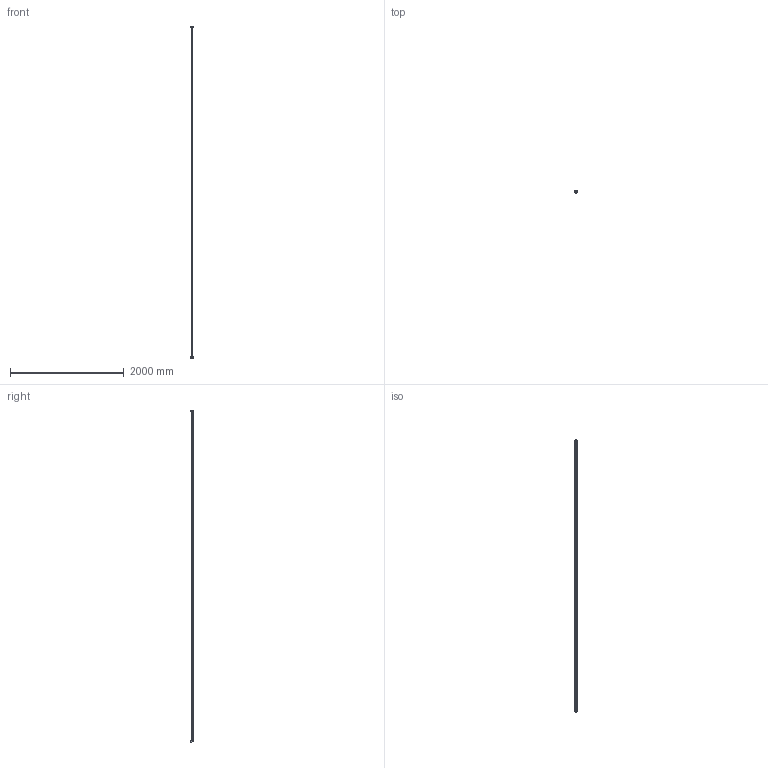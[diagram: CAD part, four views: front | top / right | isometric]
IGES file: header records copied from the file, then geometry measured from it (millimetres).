
Start section: 3D InterOp IGES (v. 2019 1.0.2), Spatial Corp. Copyright (c) 1999-2017.
Global section: file name: R1605.3_size35.igs; native system: Spatial Corp.; preprocessor: 3D InterOp GENERIC/IGES 3.0; author: Noname; organization: Noname; date: 20220629.163434; units: millimetre
Bounding box: 45.59 x 43.55 x 5840.3 mm (x, y, z)
Surface area: 1273170.3 mm2 (no closed solid volume)
Topology: 0 solids, 0 shells, 707 faces, 3524 edges, 3520 vertices
Faces by surface type: revolution 432, extrusion 275
